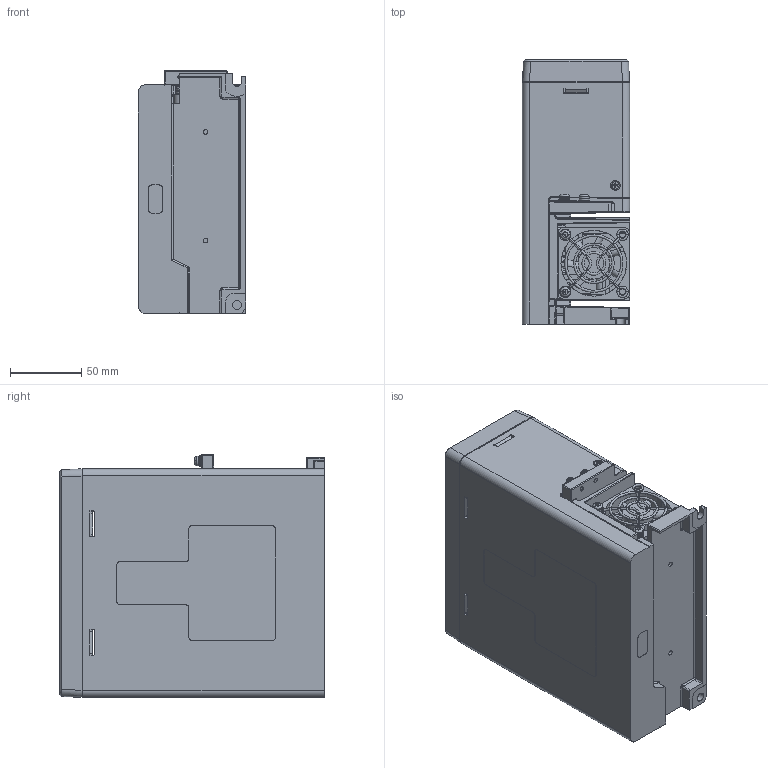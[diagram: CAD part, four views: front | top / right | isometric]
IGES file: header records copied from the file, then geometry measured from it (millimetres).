
Global section: file name: 7HNo Iges File Name specified; native system: AutoDesk Inventor R12.0; preprocessor: AutoDesk Inventor Iges Exporter R12.0; author: No Author specified; organization: No Organization specified; date: 20150122.153947; units: millimetre
Bounding box: 75 x 185.5 x 170 mm (x, y, z)
Volume: 751056.3 mm3; surface area: 270491.3 mm2
Topology: 1 solids, 5 shells, 4958 faces, 13884 edges, 8990 vertices
Faces by surface type: plane 3503, bspline 557, cylinder 376, revolution 364, torus 105, sphere 37, cone 16
